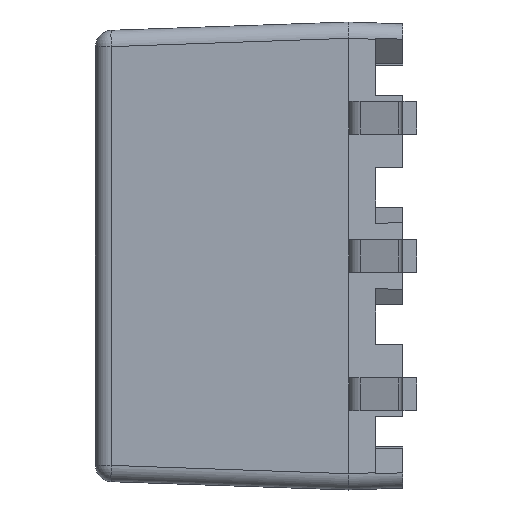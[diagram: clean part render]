
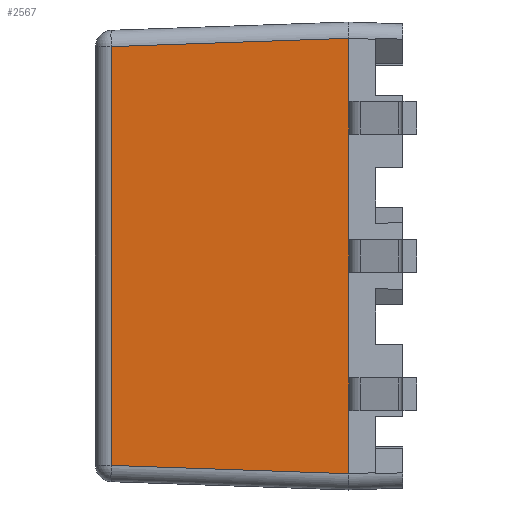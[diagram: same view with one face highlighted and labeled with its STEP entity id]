
A CAD part, left-side view. The second image highlights one B-rep face of the part: STEP entity #2567.
In plain terms, the highlighted planar face has unit normal (-0.999, 0.035, 0).
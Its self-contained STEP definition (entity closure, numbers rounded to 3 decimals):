
#17 = PLANE ( 'NONE',  #1404 ) ;
#64 = EDGE_CURVE ( 'NONE', #2131, #1256, #981, .T. ) ;
#100 = ORIENTED_EDGE ( 'NONE', *, *, #64, .T. ) ;
#133 = VECTOR ( 'NONE', #3194, 1000. ) ;
#136 = VECTOR ( 'NONE', #1446, 1000. ) ;
#174 = DIRECTION ( 'NONE',  ( 0., 0., -1. ) ) ;
#268 = VECTOR ( 'NONE', #2674, 1000. ) ;
#287 = ORIENTED_EDGE ( 'NONE', *, *, #1453, .T. ) ;
#307 = DIRECTION ( 'NONE',  ( 0., 0., 1. ) ) ;
#343 = CARTESIAN_POINT ( 'NONE',  ( -5.95, 0., -4.3 ) ) ;
#351 = LINE ( 'NONE', #1231, #1519 ) ;
#366 = DIRECTION ( 'NONE',  ( 0., 0., 1. ) ) ;
#368 = ORIENTED_EDGE ( 'NONE', *, *, #425, .T. ) ;
#371 = ORIENTED_EDGE ( 'NONE', *, *, #1137, .T. ) ;
#394 = EDGE_LOOP ( 'NONE', ( #2040, #3148, #3641, #371, #368, #2934, #287, #100, #3862, #1869 ) ) ;
#424 = CARTESIAN_POINT ( 'NONE',  ( -5.95, 0., -0.3 ) ) ;
#425 = EDGE_CURVE ( 'NONE', #1119, #1372, #1943, .T. ) ;
#517 = VECTOR ( 'NONE', #174, 1000. ) ;
#606 = CARTESIAN_POINT ( 'NONE',  ( -5.95, -0.01, -4.001 ) ) ;
#765 = CARTESIAN_POINT ( 'NONE',  ( -5.798, 4.36, -4.138 ) ) ;
#981 = LINE ( 'NONE', #2470, #3690 ) ;
#996 = CARTESIAN_POINT ( 'NONE',  ( -5.95, 0., -2.84 ) ) ;
#1036 = CARTESIAN_POINT ( 'NONE',  ( -5.95, 0., 2.24 ) ) ;
#1075 = DIRECTION ( 'NONE',  ( 0., 0., 1. ) ) ;
#1103 = CARTESIAN_POINT ( 'NONE',  ( -5.95, 0., 0.3 ) ) ;
#1119 = VERTEX_POINT ( 'NONE', #2751 ) ;
#1137 = EDGE_CURVE ( 'NONE', #1388, #1119, #351, .T. ) ;
#1226 = LINE ( 'NONE', #2746, #2917 ) ;
#1231 = CARTESIAN_POINT ( 'NONE',  ( -5.95, 0., -2.24 ) ) ;
#1253 = LINE ( 'NONE', #343, #3114 ) ;
#1256 = VERTEX_POINT ( 'NONE', #1326 ) ;
#1326 = CARTESIAN_POINT ( 'NONE',  ( -5.95, 0., 2.84 ) ) ;
#1372 = VERTEX_POINT ( 'NONE', #424 ) ;
#1388 = VERTEX_POINT ( 'NONE', #996 ) ;
#1404 = AXIS2_PLACEMENT_3D ( 'NONE', #1504, #2692, #1778 ) ;
#1446 = DIRECTION ( 'NONE',  ( 0., 0., 1. ) ) ;
#1453 = EDGE_CURVE ( 'NONE', #3695, #2131, #1226, .T. ) ;
#1466 = LINE ( 'NONE', #606, #268 ) ;
#1504 = CARTESIAN_POINT ( 'NONE',  ( -5.95, 0., -4.3 ) ) ;
#1519 = VECTOR ( 'NONE', #3025, 1000. ) ;
#1542 = FACE_OUTER_BOUND ( 'NONE', #394, .T. ) ;
#1650 = CARTESIAN_POINT ( 'NONE',  ( -5.95, 0., -4.3 ) ) ;
#1682 = LINE ( 'NONE', #765, #517 ) ;
#1778 = DIRECTION ( 'NONE',  ( -0.035, -0.999, 0. ) ) ;
#1869 = ORIENTED_EDGE ( 'NONE', *, *, #3464, .T. ) ;
#1943 = LINE ( 'NONE', #1650, #3185 ) ;
#1982 = CARTESIAN_POINT ( 'NONE',  ( -5.94, 0.289, 3.99 ) ) ;
#2019 = VERTEX_POINT ( 'NONE', #2445 ) ;
#2040 = ORIENTED_EDGE ( 'NONE', *, *, #3656, .T. ) ;
#2072 = VERTEX_POINT ( 'NONE', #2563 ) ;
#2131 = VERTEX_POINT ( 'NONE', #1036 ) ;
#2277 = CARTESIAN_POINT ( 'NONE',  ( -5.95, 0., -4.3 ) ) ;
#2311 = DIRECTION ( 'NONE',  ( 0., 0., 1. ) ) ;
#2445 = CARTESIAN_POINT ( 'NONE',  ( -5.798, 4.36, 3.848 ) ) ;
#2470 = CARTESIAN_POINT ( 'NONE',  ( -5.95, 0., 2.84 ) ) ;
#2547 = VECTOR ( 'NONE', #2311, 1000. ) ;
#2563 = CARTESIAN_POINT ( 'NONE',  ( -5.95, 0., 4. ) ) ;
#2567 = ADVANCED_FACE ( 'NONE', ( #1542 ), #17, .T. ) ;
#2594 = CARTESIAN_POINT ( 'NONE',  ( -5.95, 0., -4. ) ) ;
#2602 = LINE ( 'NONE', #1103, #2547 ) ;
#2618 = LINE ( 'NONE', #2277, #136 ) ;
#2657 = EDGE_CURVE ( 'NONE', #2956, #3463, #1466, .T. ) ;
#2674 = DIRECTION ( 'NONE',  ( -0.035, -0.999, -0.035 ) ) ;
#2692 = DIRECTION ( 'NONE',  ( -0.999, 0.035, 0. ) ) ;
#2746 = CARTESIAN_POINT ( 'NONE',  ( -5.95, 0., -4.3 ) ) ;
#2751 = CARTESIAN_POINT ( 'NONE',  ( -5.95, 0., -2.24 ) ) ;
#2917 = VECTOR ( 'NONE', #307, 1000. ) ;
#2934 = ORIENTED_EDGE ( 'NONE', *, *, #3913, .T. ) ;
#2956 = VERTEX_POINT ( 'NONE', #3189 ) ;
#3025 = DIRECTION ( 'NONE',  ( 0., 0., 1. ) ) ;
#3047 = EDGE_CURVE ( 'NONE', #1256, #2072, #1253, .T. ) ;
#3114 = VECTOR ( 'NONE', #3382, 1000. ) ;
#3146 = CARTESIAN_POINT ( 'NONE',  ( -5.95, 0., 0.3 ) ) ;
#3148 = ORIENTED_EDGE ( 'NONE', *, *, #2657, .T. ) ;
#3185 = VECTOR ( 'NONE', #1075, 1000. ) ;
#3189 = CARTESIAN_POINT ( 'NONE',  ( -5.798, 4.36, -3.848 ) ) ;
#3194 = DIRECTION ( 'NONE',  ( 0.035, 0.999, -0.035 ) ) ;
#3382 = DIRECTION ( 'NONE',  ( 0., 0., 1. ) ) ;
#3463 = VERTEX_POINT ( 'NONE', #2594 ) ;
#3464 = EDGE_CURVE ( 'NONE', #2072, #2019, #3794, .T. ) ;
#3502 = EDGE_CURVE ( 'NONE', #3463, #1388, #2618, .T. ) ;
#3641 = ORIENTED_EDGE ( 'NONE', *, *, #3502, .T. ) ;
#3656 = EDGE_CURVE ( 'NONE', #2019, #2956, #1682, .T. ) ;
#3690 = VECTOR ( 'NONE', #366, 1000. ) ;
#3695 = VERTEX_POINT ( 'NONE', #3146 ) ;
#3794 = LINE ( 'NONE', #1982, #133 ) ;
#3862 = ORIENTED_EDGE ( 'NONE', *, *, #3047, .T. ) ;
#3913 = EDGE_CURVE ( 'NONE', #1372, #3695, #2602, .T. ) ;
